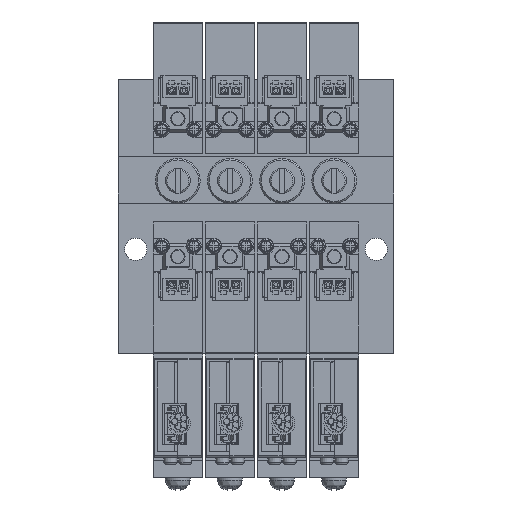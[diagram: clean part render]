
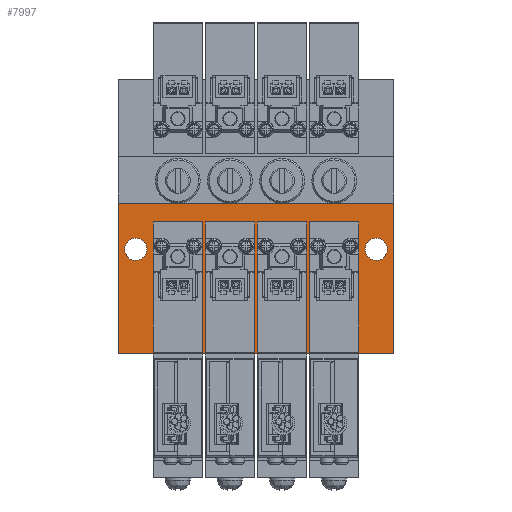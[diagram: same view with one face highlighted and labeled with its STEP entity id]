
A CAD part, top view. The second image highlights one B-rep face of the part: STEP entity #7997.
In plain terms, the highlighted planar face has unit normal (0, 0, 1).
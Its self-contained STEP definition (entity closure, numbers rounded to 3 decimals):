
#7997=ADVANCED_FACE('',(#13508,#13509,#13510),#13511,.F.);
#13508=FACE_BOUND('',#24684,.T.);
#13509=FACE_BOUND('',#24685,.T.);
#13510=FACE_OUTER_BOUND('',#24686,.T.);
#13511=PLANE('',#24687);
#24684=EDGE_LOOP('',(#37653));
#24685=EDGE_LOOP('',(#37654));
#24686=EDGE_LOOP('',(#37655,#37656,#37657,#37658));
#24687=AXIS2_PLACEMENT_3D('',#37659,#37660,#37661);
#37653=ORIENTED_EDGE('',*,*,#81177,.F.);
#37654=ORIENTED_EDGE('',*,*,#81178,.F.);
#37655=ORIENTED_EDGE('',*,*,#81179,.F.);
#37656=ORIENTED_EDGE('',*,*,#81180,.F.);
#37657=ORIENTED_EDGE('',*,*,#81181,.T.);
#37658=ORIENTED_EDGE('',*,*,#81175,.T.);
#37659=CARTESIAN_POINT('',(-55.5,30.3,14.8));
#37660=DIRECTION('',(0.0,0.0,-1.0));
#37661=DIRECTION('',(1.0,0.0,0.0));
#81175=EDGE_CURVE('',#95282,#95280,#95283,.T.);
#81177=EDGE_CURVE('',#95285,#95285,#95286,.T.);
#81178=EDGE_CURVE('',#95287,#95287,#95288,.T.);
#81179=EDGE_CURVE('',#95289,#95280,#95290,.T.);
#81180=EDGE_CURVE('',#95291,#95289,#95292,.T.);
#81181=EDGE_CURVE('',#95291,#95282,#95293,.T.);
#95280=VERTEX_POINT('',#118996);
#95282=VERTEX_POINT('',#118999);
#95283=LINE('',#119000,#119001);
#95285=VERTEX_POINT('',#119004);
#95286=CIRCLE('',#119005,2.25);
#95287=VERTEX_POINT('',#119006);
#95288=CIRCLE('',#119007,2.25);
#95289=VERTEX_POINT('',#119008);
#95290=LINE('',#119009,#119010);
#95291=VERTEX_POINT('',#119011);
#95292=LINE('',#119012,#119013);
#95293=LINE('',#119014,#119015);
#118996=CARTESIAN_POINT('',(0.0,0.,14.8));
#118999=CARTESIAN_POINT('',(-55.5,0.,14.8));
#119000=CARTESIAN_POINT('',(-55.5,0.,14.8));
#119001=VECTOR('',#156044,1.0);
#119004=CARTESIAN_POINT('',(-49.75,21.0,14.8));
#119005=AXIS2_PLACEMENT_3D('',#156046,#156047,#156048);
#119006=CARTESIAN_POINT('',(-1.25,21.0,14.8));
#119007=AXIS2_PLACEMENT_3D('',#156049,#156050,#156051);
#119008=CARTESIAN_POINT('',(0.0,30.3,14.8));
#119009=CARTESIAN_POINT('',(0.0,30.3,14.8));
#119010=VECTOR('',#156052,1.0);
#119011=CARTESIAN_POINT('',(-55.5,30.3,14.8));
#119012=CARTESIAN_POINT('',(-55.5,30.3,14.8));
#119013=VECTOR('',#156053,1.0);
#119014=CARTESIAN_POINT('',(-55.5,30.3,14.8));
#119015=VECTOR('',#156054,1.0);
#156044=DIRECTION('',(1.0,0.0,0.0));
#156046=CARTESIAN_POINT('',(-52.0,21.0,14.8));
#156047=DIRECTION('',(0.0,0.0,1.0));
#156048=DIRECTION('',(1.0,0.0,0.0));
#156049=CARTESIAN_POINT('',(-3.5,21.0,14.8));
#156050=DIRECTION('',(0.0,0.0,1.0));
#156051=DIRECTION('',(1.0,0.0,0.0));
#156052=DIRECTION('',(0.0,-1.0,0.0));
#156053=DIRECTION('',(1.0,0.0,0.0));
#156054=DIRECTION('',(0.0,-1.0,0.0));
